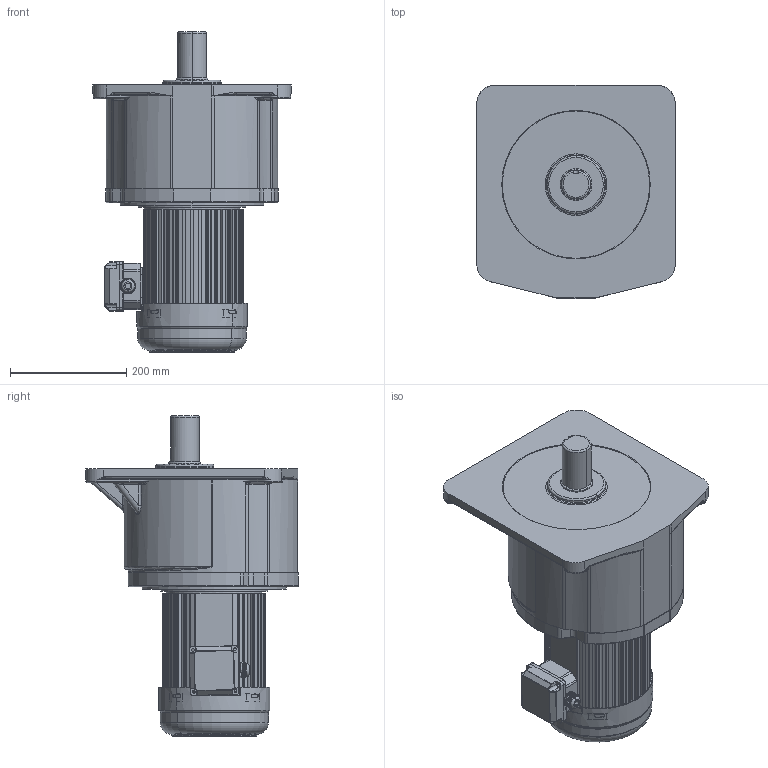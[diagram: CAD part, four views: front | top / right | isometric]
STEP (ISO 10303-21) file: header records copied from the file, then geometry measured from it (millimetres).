
FILE_DESCRIPTION (( 'STEP AP203' ), '1' );
FILE_NAME ('1500WÅä6#dai.STEP', '2020-04-16T08:06:53', ( 'china' ), ( 'china' ), 'SwSTEP 2.0', 'SolidWorks 2019', '' );
FILE_SCHEMA (( 'CONFIG_CONTROL_DESIGN' ));
Length unit declared in the file: millimetre
Products named in the file (8): 1.5KW6#蕾宒眊极; 1500W饜6#dai; 1500W儂褲; 瑞欶; 蜊輛綴諉盄碟釱3; 諉芛; 1500W棠憤迖殤; 湍价陬諉盄碟裔
Assembly tree (7 placements, depth 2):
  1500W饜6#dai
    1500W儂褲
    瑞欶
    蜊輛綴諉盄碟釱3
    諉芛
    湍价陬諉盄碟裔
    1500W棠憤迖殤
    1.5KW6#蕾宒眊极
Bounding box: 342 x 367 x 552.95 mm (x, y, z)
Volume: 14304529.4 mm3; surface area: 1403503.6 mm2
Topology: 7 solids, 9 shells, 2483 faces, 6738 edges, 4284 vertices
Faces by surface type: plane 1114, cylinder 933, torus 215, bspline 135, sphere 60, cone 26
Entity records: 92627 total; most frequent: CARTESIAN_POINT 28526, ORIENTED_EDGE 13380, DIRECTION 13185, EDGE_CURVE 6690, AXIS2_PLACEMENT_3D 4621, VERTEX_POINT 4270, LINE 3943, VECTOR 3943
